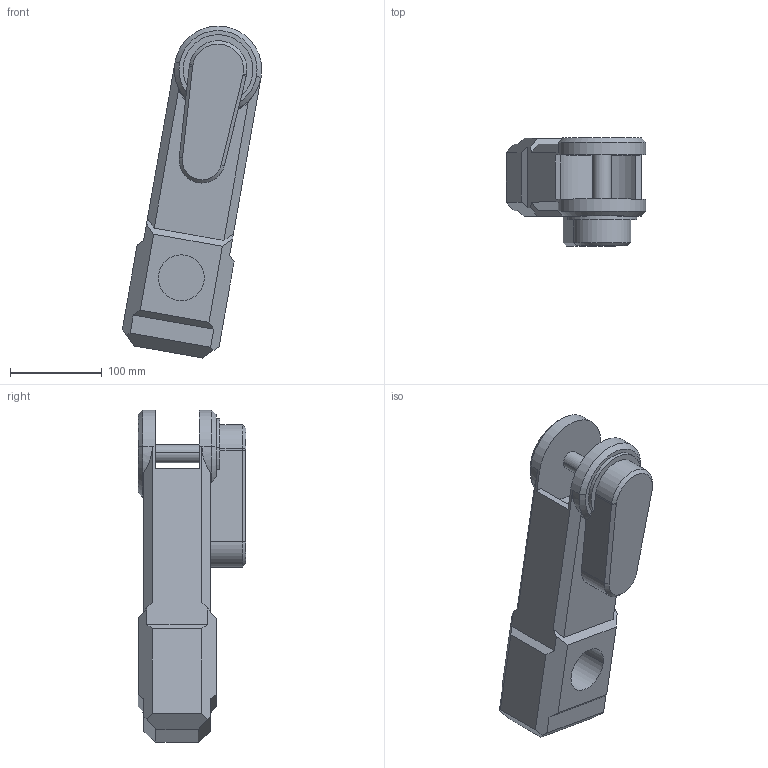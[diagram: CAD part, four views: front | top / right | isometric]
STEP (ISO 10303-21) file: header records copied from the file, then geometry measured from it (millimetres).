
FILE_DESCRIPTION (( 'STEP AP214' ), '1' );
FILE_NAME ('Joint3.STEP', '2019-03-22T05:11:08', ( '' ), ( '' ), 'SwSTEP 2.0', 'SolidWorks 2018', '' );
FILE_SCHEMA (( 'AUTOMOTIVE_DESIGN' ));
Length unit declared in the file: millimetre
Products named in the file (2): Scorbot_ER9-3_Predeterminado; Joint3
Assembly tree (1 placements, depth 2):
  Joint3
    Scorbot_ER9-3_Predeterminado
Bounding box: 151.67 x 117.5 x 361.36 mm (x, y, z)
Volume: 2459441.7 mm3; surface area: 160967.5 mm2
Topology: 1 solids, 1 shells, 242 faces, 631 edges, 416 vertices
Faces by surface type: plane 134, cylinder 96, cone 9, torus 3
Entity records: 9725 total; most frequent: CARTESIAN_POINT 1483, DIRECTION 1315, ORIENTED_EDGE 1262, EDGE_CURVE 631, AXIS2_PLACEMENT_3D 450, VERTEX_POINT 416, VECTOR 415, LINE 415
